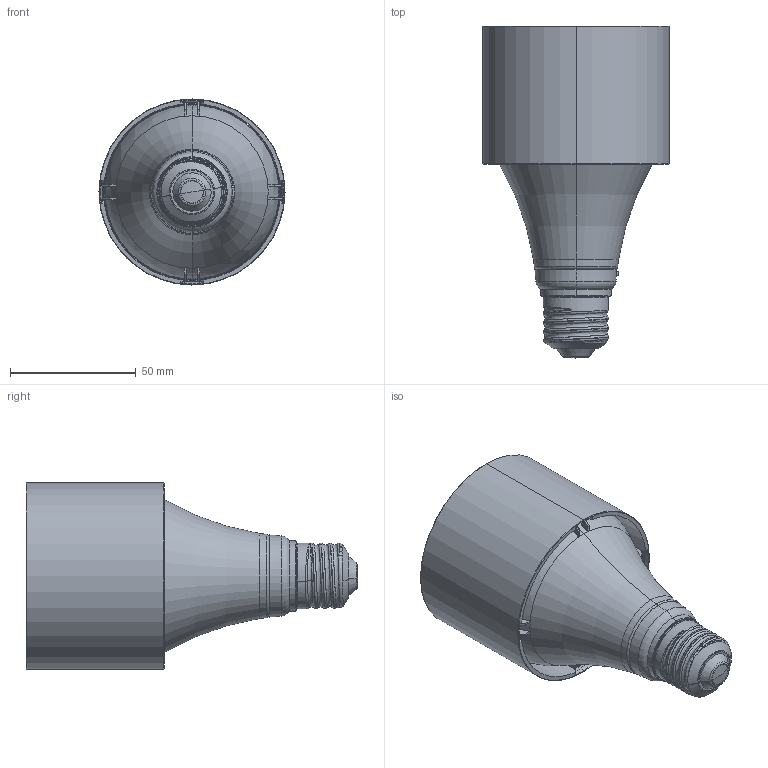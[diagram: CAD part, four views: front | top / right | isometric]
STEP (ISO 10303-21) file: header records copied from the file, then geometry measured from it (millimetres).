
FILE_DESCRIPTION(('FreeCAD Model'),'2;1');
FILE_NAME('Open CASCADE Shape Model','2024-08-30T09:58:51',( 'Lukas Balthasar Pank'),('Astera LED Technology GmbH'), 'Open CASCADE STEP processor 7.6','FreeCAD','Unknown');
FILE_SCHEMA(('AUTOMOTIVE_DESIGN { 1 0 10303 214 1 1 1 1 }'));
Length unit declared in the file: millimetre
Products named in the file (18): FP7+FP7-LRF+FP7-LDF+FP7-LSN_
LunaBulb+LunaReflector+LunaDiffusor+LunaSnoot_3Dstep_V2; LunaBulb; Lamp cup-L; inner diffuser holder; release button; spring; LunaBulb_InnerDome; LunaBulb_E27; FP7-LRF+FP7-LDF+FP7-LSN; LunaReflector; Reflector White Look; reflector cup-; LunaDiffuser; LunaSnoot
Assembly tree (19 placements, depth 4):
  FP7+FP7-LRF+FP7-LDF+FP7-LSN_
LunaBulb+LunaReflector+LunaDiffusor+LunaSnoot_3Dstep_V2
    LunaBulb
      Lamp cup-L
      inner diffuser holder
      release button
      spring
        spring
        spring
      spring
        spring
        spring
    LunaBulb_InnerDome
    LunaBulb_E27
    FP7-LRF+FP7-LDF+FP7-LSN
      LunaReflector
        Reflector White Look
        reflector cup-
      LunaDiffuser
      LunaSnoot
      LunaReflector
Bounding box: 74 x 132 x 74 mm (x, y, z)
Volume: 64112.1 mm3; surface area: 100533.2 mm2
Topology: 10 solids, 14 shells, 5213 faces, 14193 edges, 9381 vertices
Faces by surface type: bspline 2573, plane 1464, cylinder 906, cone 126, torus 98, sphere 38, revolution 8
Entity records: 223088 total; most frequent: CARTESIAN_POINT 113857, ORIENTED_EDGE 28342, EDGE_CURVE 14173, DIRECTION 12845, VERTEX_POINT 9373, B_SPLINE_CURVE_WITH_KNOTS 8855, FACE_BOUND 5604, EDGE_LOOP 5604
